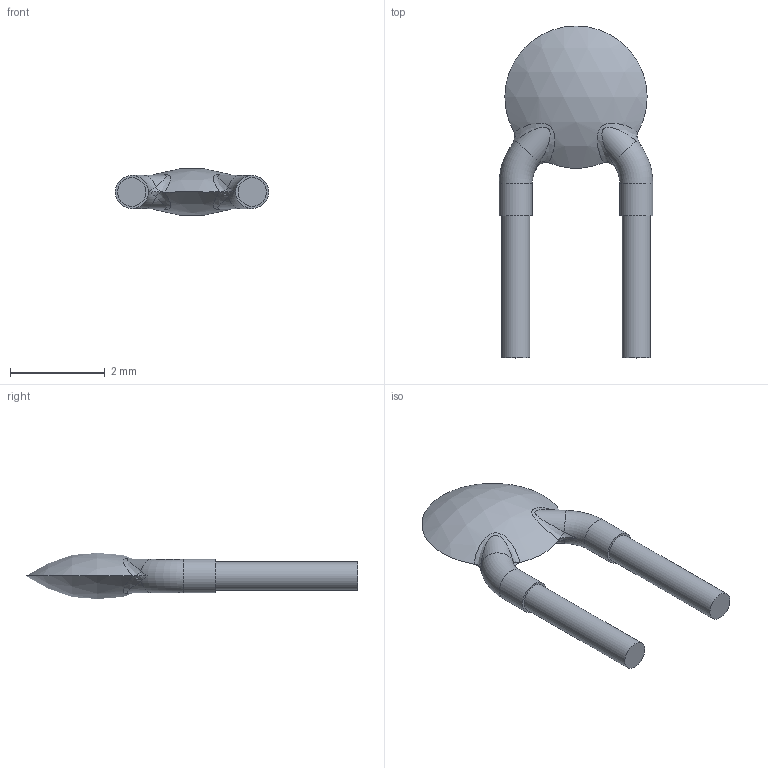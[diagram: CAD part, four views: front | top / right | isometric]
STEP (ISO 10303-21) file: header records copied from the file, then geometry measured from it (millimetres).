
FILE_DESCRIPTION(/* description */ ('STEP AP214'),/* implementation_level */ '2;1');
FILE_NAME(/* name */ 'Cap_Radial2.54.step',/* time_stamp */ '2026-10-09T02:48:33+07:00',/* author */ (''),/* organization */ (''),/* preprocessor_version */ 'ST-DEVELOPER v20.2',/* originating_system */ 'Autodesk Translation Framework v15.15.0.0',/* authorisation */ '');
FILE_SCHEMA (('AUTOMOTIVE_DESIGN { 1 0 10303 214 3 1 1 }'));
Length unit declared in the file: millimetre
Products named in the file (1): Cap
Bounding box: 3.24 x 7 x 0.97 mm (x, y, z)
Volume: 6.7 mm3; surface area: 34.3 mm2
Topology: 1 solids, 1 shells, 28 faces, 54 edges, 30 vertices
Faces by surface type: bspline 12, cylinder 8, plane 4, torus 2, sphere 2
Full cylindrical faces by diameter (mm): 0.6 x2, 0.7 x2
Entity records: 1499 total; most frequent: CARTESIAN_POINT 957, ORIENTED_EDGE 108, DIRECTION 90, EDGE_CURVE 54, AXIS2_PLACEMENT_3D 43, EDGE_LOOP 30, VERTEX_POINT 30, FACE_OUTER_BOUND 28
